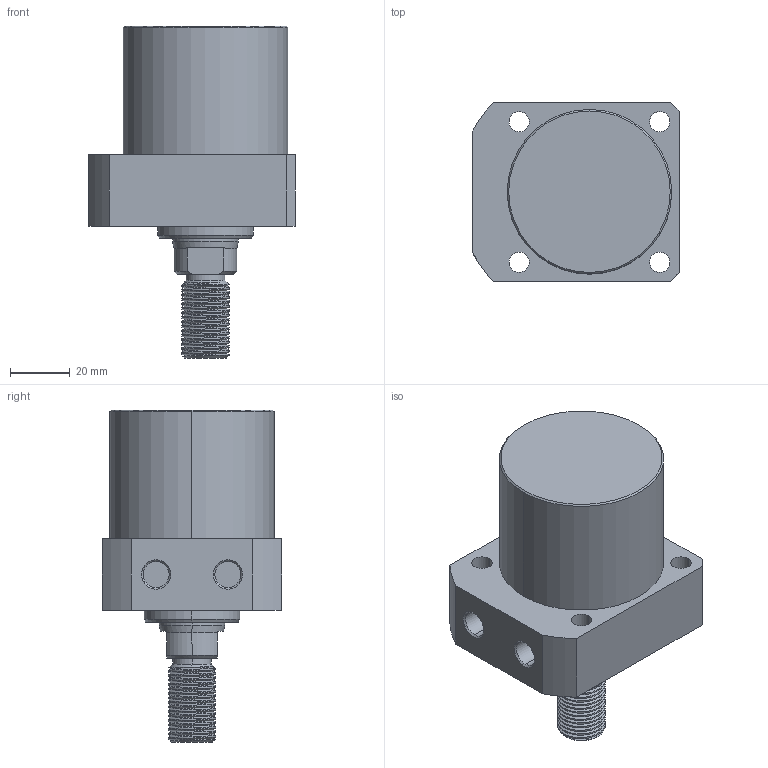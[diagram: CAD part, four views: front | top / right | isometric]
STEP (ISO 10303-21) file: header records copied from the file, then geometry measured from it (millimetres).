
FILE_DESCRIPTION (( 'STEP AP214' ), '1' );
FILE_NAME ('CLLR-055CT-030.STEP', '2020-01-09T00:19:20', ( 'Windows' ), ( 'Microsoft' ), 'SwSTEP 2.0', 'SolidWorks 2015', '' );
FILE_SCHEMA (( 'AUTOMOTIVE_DESIGN' ));
Length unit declared in the file: millimetre
Products named in the file (1): CLLR-055CT-030
Bounding box: 69 x 60 x 111 mm (x, y, z)
Volume: 206609.5 mm3; surface area: 27299.2 mm2
Topology: 1 solids, 1 shells, 101 faces, 259 edges, 168 vertices
Faces by surface type: cylinder 62, plane 20, cone 17, bspline 2
Entity records: 4995 total; most frequent: CARTESIAN_POINT 2651, ORIENTED_EDGE 518, DIRECTION 456, EDGE_CURVE 259, AXIS2_PLACEMENT_3D 178, VERTEX_POINT 168, EDGE_LOOP 117, FACE_OUTER_BOUND 101
